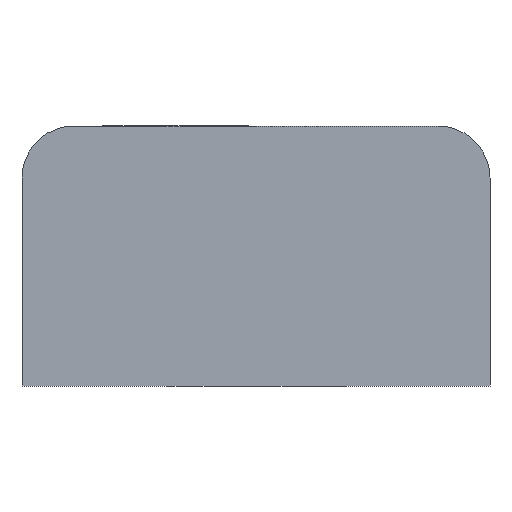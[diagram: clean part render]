
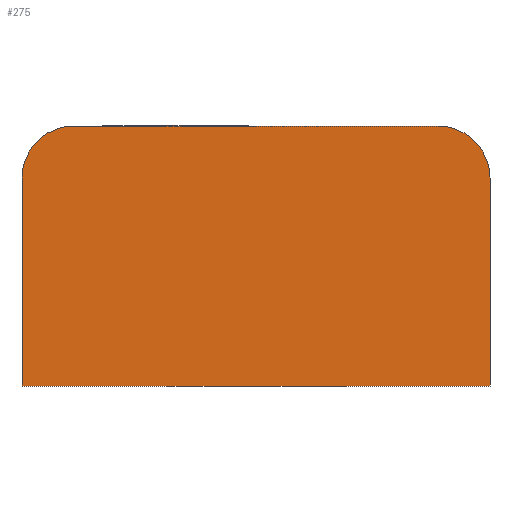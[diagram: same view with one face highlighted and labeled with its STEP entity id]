
A CAD part, front view. The second image highlights one B-rep face of the part: STEP entity #275.
In plain terms, the highlighted planar face has unit normal (0, -1, 0).
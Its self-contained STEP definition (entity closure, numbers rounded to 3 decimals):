
#130 = DIRECTION ( 'NONE',  ( 1., 0., 0. ) ) ;
#139 = DIRECTION ( 'NONE',  ( 0., 0., 1. ) ) ;
#208 = VERTEX_POINT ( 'NONE', #1289 ) ;
#275 = ADVANCED_FACE ( 'NONE', ( #499 ), #2327, .T. ) ;
#400 = LINE ( 'NONE', #851, #977 ) ;
#402 = DIRECTION ( 'NONE',  ( 0., 0., 1. ) ) ;
#450 = ORIENTED_EDGE ( 'NONE', *, *, #2917, .F. ) ;
#455 = ORIENTED_EDGE ( 'NONE', *, *, #505, .T. ) ;
#499 = FACE_OUTER_BOUND ( 'NONE', #2969, .T. ) ;
#505 = EDGE_CURVE ( 'NONE', #208, #2003, #2757, .T. ) ;
#557 = VERTEX_POINT ( 'NONE', #1356 ) ;
#635 = EDGE_CURVE ( 'NONE', #2003, #557, #2322, .T. ) ;
#649 = CARTESIAN_POINT ( 'NONE',  ( 18., 0., 0. ) ) ;
#761 = ORIENTED_EDGE ( 'NONE', *, *, #1054, .F. ) ;
#785 = CARTESIAN_POINT ( 'NONE',  ( 2., 0., 10. ) ) ;
#821 = AXIS2_PLACEMENT_3D ( 'NONE', #966, #2616, #1214 ) ;
#851 = CARTESIAN_POINT ( 'NONE',  ( 9., 0., 10. ) ) ;
#906 = CARTESIAN_POINT ( 'NONE',  ( 0., 0., 0. ) ) ;
#916 = DIRECTION ( 'NONE',  ( 0., 1., 0. ) ) ;
#933 = ORIENTED_EDGE ( 'NONE', *, *, #1765, .F. ) ;
#935 = CARTESIAN_POINT ( 'NONE',  ( 16., 0., 10. ) ) ;
#946 = VECTOR ( 'NONE', #130, 1000. ) ;
#966 = CARTESIAN_POINT ( 'NONE',  ( 16., 0., 8. ) ) ;
#977 = VECTOR ( 'NONE', #1331, 1000. ) ;
#1054 = EDGE_CURVE ( 'NONE', #2755, #1619, #400, .T. ) ;
#1069 = VECTOR ( 'NONE', #402, 1000. ) ;
#1151 = DIRECTION ( 'NONE',  ( 0., 0., -1. ) ) ;
#1214 = DIRECTION ( 'NONE',  ( 1., 0., 0. ) ) ;
#1289 = CARTESIAN_POINT ( 'NONE',  ( 0., 0., 0. ) ) ;
#1323 = AXIS2_PLACEMENT_3D ( 'NONE', #2333, #916, #2571 ) ;
#1331 = DIRECTION ( 'NONE',  ( 1., 0., 0. ) ) ;
#1353 = AXIS2_PLACEMENT_3D ( 'NONE', #906, #2564, #1151 ) ;
#1356 = CARTESIAN_POINT ( 'NONE',  ( 18., 0., 8. ) ) ;
#1480 = VECTOR ( 'NONE', #139, 1000. ) ;
#1572 = CARTESIAN_POINT ( 'NONE',  ( 9., 0., 0. ) ) ;
#1586 = ORIENTED_EDGE ( 'NONE', *, *, #635, .T. ) ;
#1619 = VERTEX_POINT ( 'NONE', #935 ) ;
#1765 = EDGE_CURVE ( 'NONE', #3054, #2755, #1896, .T. ) ;
#1831 = CARTESIAN_POINT ( 'NONE',  ( 0., 0., 4. ) ) ;
#1896 = CIRCLE ( 'NONE', #1323, 2. ) ;
#2003 = VERTEX_POINT ( 'NONE', #649 ) ;
#2322 = LINE ( 'NONE', #2971, #1069 ) ;
#2327 = PLANE ( 'NONE',  #1353 ) ;
#2330 = CARTESIAN_POINT ( 'NONE',  ( 0., 0., 8. ) ) ;
#2333 = CARTESIAN_POINT ( 'NONE',  ( 2., 0., 8. ) ) ;
#2381 = EDGE_CURVE ( 'NONE', #1619, #557, #2521, .T. ) ;
#2521 = CIRCLE ( 'NONE', #821, 2. ) ;
#2564 = DIRECTION ( 'NONE',  ( 0., -1., 0. ) ) ;
#2571 = DIRECTION ( 'NONE',  ( 1., 0., 0. ) ) ;
#2616 = DIRECTION ( 'NONE',  ( 0., 1., 0. ) ) ;
#2730 = LINE ( 'NONE', #1831, #1480 ) ;
#2755 = VERTEX_POINT ( 'NONE', #785 ) ;
#2757 = LINE ( 'NONE', #1572, #946 ) ;
#2917 = EDGE_CURVE ( 'NONE', #208, #3054, #2730, .T. ) ;
#2969 = EDGE_LOOP ( 'NONE', ( #450, #455, #1586, #2978, #761, #933 ) ) ;
#2971 = CARTESIAN_POINT ( 'NONE',  ( 18., 0., 4. ) ) ;
#2978 = ORIENTED_EDGE ( 'NONE', *, *, #2381, .F. ) ;
#3054 = VERTEX_POINT ( 'NONE', #2330 ) ;
